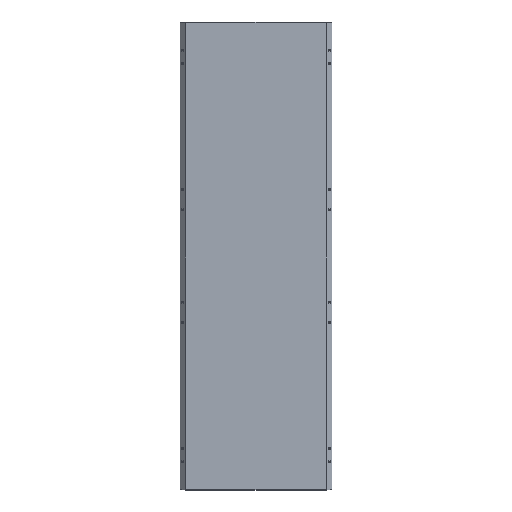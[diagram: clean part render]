
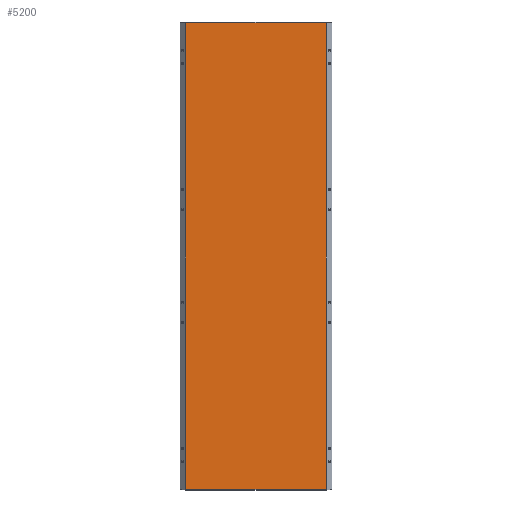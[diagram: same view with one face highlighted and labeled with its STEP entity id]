
A CAD part, top view. The second image highlights one B-rep face of the part: STEP entity #5200.
In plain terms, the highlighted planar face has unit normal (0, 0, 1).
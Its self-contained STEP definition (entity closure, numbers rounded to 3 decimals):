
#79 = LINE ( 'NONE', #1914, #4684 ) ;
#316 = LINE ( 'NONE', #6955, #721 ) ;
#380 = EDGE_LOOP ( 'NONE', ( #4286, #917, #6100, #7500 ) ) ;
#534 = VERTEX_POINT ( 'NONE', #953 ) ;
#721 = VECTOR ( 'NONE', #2115, 1000. ) ;
#774 = DIRECTION ( 'NONE',  ( 0., -1., 0. ) ) ;
#880 = DIRECTION ( 'NONE',  ( -1., 0., 0. ) ) ;
#913 = CARTESIAN_POINT ( 'NONE',  ( -261.5, 870.5, 0. ) ) ;
#917 = ORIENTED_EDGE ( 'NONE', *, *, #1599, .T. ) ;
#953 = CARTESIAN_POINT ( 'NONE',  ( -261.5, -870.5, 0. ) ) ;
#1599 = EDGE_CURVE ( 'NONE', #7284, #7562, #2756, .T. ) ;
#1914 = CARTESIAN_POINT ( 'NONE',  ( -261.5, -870.5, 0. ) ) ;
#2115 = DIRECTION ( 'NONE',  ( 0., 1., 0. ) ) ;
#2311 = DIRECTION ( 'NONE',  ( 0., 0., -1. ) ) ;
#2577 = CARTESIAN_POINT ( 'NONE',  ( -261.5, -870.5, 0. ) ) ;
#2597 = DIRECTION ( 'NONE',  ( 1., 0., 0. ) ) ;
#2756 = LINE ( 'NONE', #913, #6074 ) ;
#2942 = PLANE ( 'NONE',  #6086 ) ;
#3210 = LINE ( 'NONE', #2577, #4914 ) ;
#3263 = VERTEX_POINT ( 'NONE', #4268 ) ;
#4268 = CARTESIAN_POINT ( 'NONE',  ( 261.5, -870.5, 0. ) ) ;
#4286 = ORIENTED_EDGE ( 'NONE', *, *, #4871, .T. ) ;
#4684 = VECTOR ( 'NONE', #2597, 1000. ) ;
#4871 = EDGE_CURVE ( 'NONE', #3263, #7284, #316, .T. ) ;
#4914 = VECTOR ( 'NONE', #774, 1000. ) ;
#5200 = ADVANCED_FACE ( 'NONE', ( #5905 ), #2942, .F. ) ;
#5905 = FACE_OUTER_BOUND ( 'NONE', #380, .T. ) ;
#6074 = VECTOR ( 'NONE', #880, 1000. ) ;
#6086 = AXIS2_PLACEMENT_3D ( 'NONE', #7798, #2311, #7681 ) ;
#6100 = ORIENTED_EDGE ( 'NONE', *, *, #7122, .T. ) ;
#6831 = EDGE_CURVE ( 'NONE', #534, #3263, #79, .T. ) ;
#6955 = CARTESIAN_POINT ( 'NONE',  ( 261.5, -870.5, 0. ) ) ;
#7122 = EDGE_CURVE ( 'NONE', #7562, #534, #3210, .T. ) ;
#7284 = VERTEX_POINT ( 'NONE', #7346 ) ;
#7346 = CARTESIAN_POINT ( 'NONE',  ( 261.5, 870.5, 0. ) ) ;
#7500 = ORIENTED_EDGE ( 'NONE', *, *, #6831, .T. ) ;
#7562 = VERTEX_POINT ( 'NONE', #7794 ) ;
#7681 = DIRECTION ( 'NONE',  ( -1., 0., 0. ) ) ;
#7794 = CARTESIAN_POINT ( 'NONE',  ( -261.5, 870.5, 0. ) ) ;
#7798 = CARTESIAN_POINT ( 'NONE',  ( 0., 0., 0. ) ) ;
